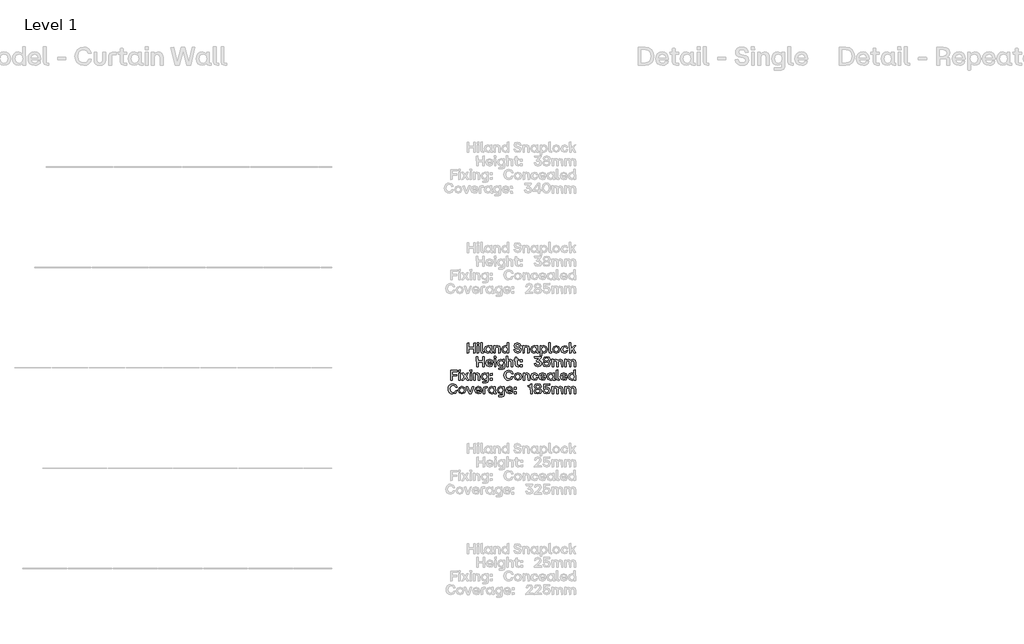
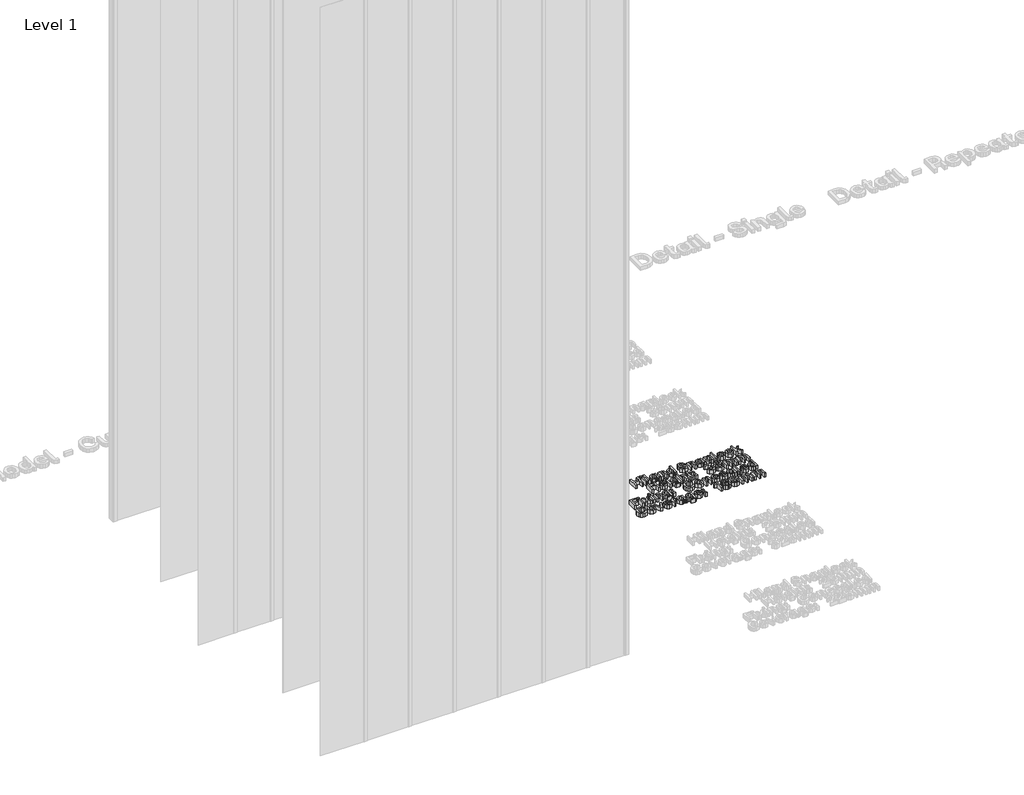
# One storey, part 17 of 64: 1 proxy.
"""IFC4 building model written with IfcOpenShell, lengths in millimetres."""

import ifcopenshell
import ifcopenshell.guid

model = None  # the IFC model being written
_history = None  # IfcOwnerHistory: only IFC2X3 demands one
_inside = {}  # id of a spatial element -> (the spatial element, [elements in it])
_under = {}  # id of a project, library or spatial element -> (it, [spatial elements below it])
_declared = {}  # id of a project -> (the project, [libraries it declares])
_typed = {}  # id of a type object -> (the type object, [elements of that type])
_made_of = {}  # id of a material, layer set ... -> (it, [elements and type objects made of it])


def new_model(schema):
    """Start an empty IFC model of exactly this schema.

    Asked for "IFC4X3", IfcOpenShell would pick the latest addendum, in which some entities
    have other attributes; the version numbers below select the first issue.
    IFC2X3 requires an IfcOwnerHistory on every rooted entity: one is made here for all.
    """
    global model, _history
    if schema == "IFC4X3":
        model = ifcopenshell.file(schema_version=(4, 3, 0, 0))
    else:
        model = ifcopenshell.file(schema=schema)
    _inside.clear()
    _under.clear()
    _declared.clear()
    _typed.clear()
    _made_of.clear()
    _history = None
    if model.schema == "IFC2X3":
        org = make("IfcOrganization", Name="unknown")
        user = make(
            "IfcPersonAndOrganization",
            ThePerson=make("IfcPerson", FamilyName="unknown"),
            TheOrganization=org,
        )
        app = make(
            "IfcApplication",
            ApplicationDeveloper=org,
            Version="unknown",
            ApplicationFullName="unknown",
            ApplicationIdentifier="unknown",
        )
        _history = make(
            "IfcOwnerHistory",
            OwningUser=user,
            OwningApplication=app,
            ChangeAction="ADDED",
            CreationDate=0,
        )
    return model


def make(cls, **values):
    """One entity of the class cls with the attributes given. An attribute that is None is left unset."""
    return model.create_entity(
        cls, **{name: value for name, value in values.items() if value is not None}
    )


def rooted(cls, **values):
    """An entity with a GlobalId (a new one), such as an element, a storey or a relation."""
    return make(cls, GlobalId=ifcopenshell.guid.new(), OwnerHistory=_history, **values)


def si_unit(unit_type, name, prefix=None):
    """IfcSIUnit, for example si_unit("LENGTHUNIT", "METRE", prefix="MILLI")."""
    return make("IfcSIUnit", UnitType=unit_type, Prefix=prefix, Name=name)


def assignment(units):
    """IfcUnitAssignment: the units of a project."""
    return None if units is None else make("IfcUnitAssignment", Units=units)


def point(xyz):
    """IfcCartesianPoint."""
    return None if xyz is None else make("IfcCartesianPoint", Coordinates=xyz)


def direction(xyz):
    """IfcDirection."""
    return None if xyz is None else make("IfcDirection", DirectionRatios=xyz)


def frame(location, z_axis=None, x_axis=None):
    """IfcAxis2Placement3D, a coordinate frame: its origin and axes. An axis left out is left unset."""
    return make(
        "IfcAxis2Placement3D",
        Location=point(location),
        Axis=direction(z_axis),
        RefDirection=direction(x_axis),
    )


def origin():
    """The frame at (0, 0, 0) with its axes left unset."""
    return frame((0.0, 0.0, 0.0))


def origin_with_axes():
    """The frame at (0, 0, 0) with the z axis (0, 0, 1) and the x axis (1, 0, 0) written out."""
    return frame((0.0, 0.0, 0.0), z_axis=(0.0, 0.0, 1.0), x_axis=(1.0, 0.0, 0.0))


def place(relative_to, where):
    """IfcLocalPlacement: puts the frame where relative to a parent placement (None: the world)."""
    return make(
        "IfcLocalPlacement", PlacementRelTo=relative_to, RelativePlacement=where
    )


def context(
    kind, dimensions, precision=None, world=None, true_north=None, identifier=None
):
    """IfcGeometricRepresentationContext, for example the 3D "Model" context."""
    return make(
        "IfcGeometricRepresentationContext",
        ContextIdentifier=identifier,
        ContextType=kind,
        CoordinateSpaceDimension=dimensions,
        Precision=precision,
        WorldCoordinateSystem=world,
        TrueNorth=true_north,
    )


def project(units=None, contexts=None):
    """IfcProject with its units and contexts."""
    return rooted(
        "IfcProject",
        Name="project",
        RepresentationContexts=contexts,
        UnitsInContext=assignment(units),
    )


def spatial(cls, under=None, at=None, **own):
    """A site, building, storey or space (cls), placed at a placement, below another one or the project."""
    s = rooted(cls, ObjectPlacement=at, **own)
    if under is not None:
        _under.setdefault(under.id(), (under, []))[1].append(s)
    return s


def polyline(points):
    """IfcPolyline through the points."""
    return make("IfcPolyline", Points=[point(p) for p in points])


def outline(outer, holes=None, kind="AREA"):
    """IfcArbitraryClosedProfileDef: a profile drawn as a closed curve; with holes, ...WithVoids."""
    if holes is None:
        return make("IfcArbitraryClosedProfileDef", ProfileType=kind, OuterCurve=outer)
    return make(
        "IfcArbitraryProfileDefWithVoids",
        ProfileType=kind,
        OuterCurve=outer,
        InnerCurves=holes,
    )


def extrude(swept, where, along, depth):
    """IfcExtrudedAreaSolid: the profile swept, set in the frame where, extruded along a direction by depth."""
    return make(
        "IfcExtrudedAreaSolid",
        SweptArea=swept,
        Position=where,
        ExtrudedDirection=direction(along),
        Depth=depth,
    )


def shape(context_of_items, identifier, shape_type, items):
    """IfcShapeRepresentation: the items that make up one representation, for example the "Body"."""
    return make(
        "IfcShapeRepresentation",
        ContextOfItems=context_of_items,
        RepresentationIdentifier=identifier,
        RepresentationType=shape_type,
        Items=items,
    )


def made_of(thing, what):
    """Note that an element or type object is made of a material, layer set ...; save() writes the relation."""
    if what is not None:
        _made_of.setdefault(what.id(), (what, []))[1].append(thing)
    return thing


def element(
    cls,
    number,
    at=None,
    inside=None,
    cuts=None,
    type_object=None,
    material=None,
    context=None,
    identifier="Body",
    shape_type=None,
    held_by="IfcProductDefinitionShape",
    body=None,
    shapes=None,
    **own,
):
    """One element of the class cls, such as IfcWall. Its Tag is "e" and its number.

    at: its placement. inside: the storey or other place that contains it. cuts: it is an
    opening in that element (IfcRelVoidsElement). A single representation is given by context,
    identifier, shape_type and body (its items); several are given by shapes. held_by: the class
    of the entity that holds the representations. save() writes the other relations.
    """
    e = rooted(cls, Tag="e%d" % number, ObjectPlacement=at, **own)
    if body is not None:
        shapes = [shape(context, identifier, shape_type, body)]
    if shapes is not None:
        e.Representation = make(held_by, Representations=shapes)
    if inside is not None:
        _inside.setdefault(inside.id(), (inside, []))[1].append(e)
    if cuts is not None:
        rooted(
            "IfcRelVoidsElement", RelatingBuildingElement=cuts, RelatedOpeningElement=e
        )
    if type_object is not None:
        _typed.setdefault(type_object.id(), (type_object, []))[1].append(e)
    return made_of(e, material)


def aggregate(whole, parts):
    """IfcRelAggregates: a whole, such as a stair, and the parts it consists of."""
    return rooted("IfcRelAggregates", RelatingObject=whole, RelatedObjects=parts)


def save(model, path):
    """Write the relations noted so far, then the file.

    IfcRelAggregates (storeys below a building ...), IfcRelContainedInSpatialStructure (elements
    in a storey), IfcRelDefinesByType, IfcRelAssociatesMaterial and IfcRelDeclares: one each for
    every whole, place, type object, material and project.
    """
    for whole, parts in _under.values():
        aggregate(whole, parts)
    for where, things in _inside.values():
        rooted(
            "IfcRelContainedInSpatialStructure",
            RelatedElements=things,
            RelatingStructure=where,
        )
    for kind, things in _typed.values():
        rooted("IfcRelDefinesByType", RelatedObjects=things, RelatingType=kind)
    for what, things in _made_of.values():
        rooted("IfcRelAssociatesMaterial", RelatedObjects=things, RelatingMaterial=what)
    for by, libraries in _declared.values():
        rooted("IfcRelDeclares", RelatingContext=by, RelatedDefinitions=libraries)
    model.write(path)


model = new_model("IFC4")

# Units and contexts
model_context = context("Model", 3, world=origin())
ifc_project = project(units=[si_unit("LENGTHUNIT", "METRE", prefix="MILLI")], contexts=[model_context])

# Site, building, storey
site = spatial("IfcSite", under=ifc_project)
building = spatial("IfcBuilding", under=site)
storey = spatial("IfcBuildingStorey", under=building, Name="Level 1", Elevation=0.0)

# Proxy
placement = place(None, origin())
element("IfcBuildingElementProxy", 1, Name="50mm", ObjectType="50mm", at=placement, inside=storey, context=model_context, shape_type="SweptSolid", body=[
    extrude(outline(polyline([(2488.8278866, -7933.5188866), (2488.1305548, -7911.5808277), (2464.2818068, -7911.5808277), (2464.2818068, -7932.8215548), (2456.7785164, -7933.5188866), (2456.0532913, -7884.2454206), (2463.542635, -7883.5201955), (2464.2818068, -7904.6075096), (2488.1305548, -7904.6075096), (2488.1305548, -7884.2454206), (2495.6198985, -7883.5201955), (2496.3172303, -7932.8215548), (2488.8278866, -7933.5188866)])), origin_with_axes(), (0.0, 0.0, 1.0), 20.0),
    extrude(outline(polyline([(2506.414595, -7933.5188866), (2505.6893699, -7897.8154977), (2512.8997809, -7897.1181659), (2513.5971127, -7932.8215548), (2506.414595, -7933.5188866)])), origin_with_axes(), (0.0, 0.0, 1.0), 20.0),
    extrude(outline(polyline([(2505.4801704, -7890.4516737), (2505.1315045, -7882.4044646), (2513.5273795, -7881.6652929), (2514.2665512, -7890.1030078), (2505.4801704, -7890.4516737)])), origin_with_axes(), (0.0, 0.0, 1.0), 20.0),
    extrude(outline(polyline([(2532.9968838, -7933.5188866), (2525.2983405, -7930.8690257), (2522.6484796, -7923.1565359), (2522.6484796, -7882.8228637), (2529.8588906, -7882.083692), (2530.5562224, -7927.2429003), (2537.2227146, -7927.2429003), (2537.9200464, -7932.8215548), (2532.9968838, -7933.5188866)])), origin_with_axes(), (0.0, 0.0, 1.0), 20.0),
    extrude(outline(polyline([(2558.0868825, -7933.9372857), (2546.3159214, -7928.8955767), (2541.9366776, -7915.3882594), (2546.3159214, -7901.7484491), (2558.0868825, -7896.6579269), (2564.7045614, -7898.2617901), (2569.6904839, -7902.6549805), (2570.0112565, -7897.8154977), (2577.1937742, -7897.1181659), (2577.9189993, -7927.2429003), (2581.8658973, -7927.2429003), (2582.5632291, -7932.8215548), (2576.5661755, -7933.5188866), (2571.9114857, -7932.2113895), (2570.3599224, -7928.288898), (2565.0044141, -7932.3334225), (2558.0868825, -7933.9372857)]), holes=[polyline([(2549.9978334, -7915.3882594), (2552.7522941, -7924.2792401), (2560.2765044, -7927.521833), (2567.6403283, -7924.2931867), (2570.2901892, -7915.3882594), (2567.6194084, -7906.392679), (2560.2765044, -7903.1152195), (2552.7522941, -7906.392679), (2549.9978334, -7915.3882594)])]), origin_with_axes(), (0.0, 0.0, 1.0), 20.0),
    extrude(outline(polyline([(2589.4249742, -7933.5188866), (2588.6997491, -7897.8154977), (2595.5614942, -7897.1181659), (2596.258826, -7902.6549805), (2601.4225681, -7898.1571903), (2608.0437337, -7896.6579269), (2617.6041528, -7900.8419178), (2620.916479, -7913.0870644), (2620.916479, -7932.8215548), (2613.6921214, -7933.5188866), (2612.9668963, -7913.0870644), (2611.0143672, -7905.7092939), (2604.8429806, -7903.3941522), (2598.6158075, -7905.7441604), (2596.6074919, -7913.0870644), (2596.6074919, -7932.8215548), (2589.4249742, -7933.5188866)])), origin_with_axes(), (0.0, 0.0, 1.0), 20.0),
    extrude(outline(polyline([(2643.7750158, -7933.9372857), (2632.0040548, -7928.8955767), (2627.624811, -7915.3882594), (2632.0040548, -7901.7484491), (2643.7750158, -7896.6579269), (2650.3926948, -7898.2617901), (2655.3786172, -7902.6549805), (2655.6993899, -7882.8228637), (2662.8819076, -7882.083692), (2663.6071326, -7932.8215548), (2656.7453876, -7933.5188866), (2656.0480558, -7928.0099653), (2650.6925474, -7932.3334225), (2643.7750158, -7933.9372857)]), holes=[polyline([(2635.6859668, -7915.3882594), (2638.4404275, -7924.2792401), (2645.9646377, -7927.521833), (2653.3284617, -7924.2931867), (2655.9783226, -7915.3882594), (2653.3075417, -7906.392679), (2645.9646377, -7903.1152195), (2638.4404275, -7906.392679), (2635.6859668, -7915.3882594)])]), origin_with_axes(), (0.0, 0.0, 1.0), 20.0),
    extrude(outline(polyline([(2707.7621831, -7933.9372857), (2694.1781594, -7929.823028), (2688.1950524, -7918.1078535), (2695.5588764, -7917.2989486), (2699.7219473, -7924.9417053), (2707.7621831, -7927.1034339), (2714.7145813, -7925.1160383), (2717.2040559, -7919.6001436), (2715.4816463, -7915.0186736), (2709.7147122, -7912.7383985), (2703.1179533, -7911.5808277), (2692.6370561, -7906.8180514), (2689.1434237, -7897.4668318), (2693.6202939, -7886.9022548), (2706.1164801, -7883.1017964), (2718.7102926, -7886.951068), (2724.3168404, -7897.8154977), (2716.9948564, -7898.610456), (2712.9712518, -7891.8672573), (2706.1164801, -7889.9635415), (2699.582481, -7891.706871), (2697.3300992, -7896.7973933), (2699.3384148, -7901.6299027), (2705.6283478, -7904.1612172), (2712.1832668, -7905.3048414), (2722.2806315, -7909.8932847), (2725.4046781, -7919.4606772), (2720.7116349, -7930.1019607), (2707.7621831, -7933.9372857)])), origin_with_axes(), (0.0, 0.0, 1.0), 20.0),
    extrude(outline(polyline([(2734.0236993, -7933.5188866), (2733.2984742, -7897.8154977), (2740.1602192, -7897.1181659), (2740.8575511, -7902.6549805), (2746.0212931, -7898.1571903), (2752.6424587, -7896.6579269), (2762.2028779, -7900.8419178), (2765.515204, -7913.0870644), (2765.515204, -7932.8215548), (2758.2908464, -7933.5188866), (2757.5656213, -7913.0870644), (2755.6130923, -7905.7092939), (2749.4417057, -7903.3941522), (2743.2145326, -7905.7441604), (2741.206217, -7913.0870644), (2741.206217, -7932.8215548), (2734.0236993, -7933.5188866)])), origin_with_axes(), (0.0, 0.0, 1.0), 20.0),
    extrude(outline(polyline([(2788.3737409, -7933.9372857), (2776.6027799, -7928.8955767), (2772.2235361, -7915.3882594), (2776.6027799, -7901.7484491), (2788.3737409, -7896.6579269), (2794.9914198, -7898.2617901), (2799.9773423, -7902.6549805), (2800.2981149, -7897.8154977), (2807.4806326, -7897.1181659), (2808.2058577, -7927.2429003), (2812.1527558, -7927.2429003), (2812.8500876, -7932.8215548), (2806.853034, -7933.5188866), (2802.1983441, -7932.2113895), (2800.6467808, -7928.288898), (2795.2912725, -7932.3334225), (2788.3737409, -7933.9372857)]), holes=[polyline([(2780.2846919, -7915.3882594), (2783.0391525, -7924.2792401), (2790.5633628, -7927.521833), (2797.9271868, -7924.2931867), (2800.5770477, -7915.3882594), (2797.9062668, -7906.392679), (2790.5633628, -7903.1152195), (2783.0391525, -7906.392679), (2780.2846919, -7915.3882594)])]), origin_with_axes(), (0.0, 0.0, 1.0), 20.0),
    extrude(outline(polyline([(2819.7118327, -7947.0750171), (2818.9866076, -7897.8154977), (2825.8483526, -7897.1181659), (2826.5456844, -7902.5852473), (2831.9011928, -7898.2617901), (2838.8187244, -7896.6579269), (2850.5896854, -7901.7135826), (2854.9689292, -7915.2487931), (2850.5896854, -7928.8607101), (2838.8187244, -7933.9372857), (2832.2010455, -7932.3334225), (2827.215123, -7927.9402321), (2826.8943503, -7946.3776853), (2819.7118327, -7947.0750171)]), holes=[polyline([(2826.6154176, -7915.2487931), (2829.2861985, -7924.2443735), (2836.6291025, -7927.521833), (2844.1533128, -7924.2443735), (2846.9077734, -7915.2487931), (2844.1533128, -7906.3578124), (2836.6291025, -7903.1152195), (2829.2652785, -7906.3368925), (2826.6154176, -7915.2487931)])]), origin_with_axes(), (0.0, 0.0, 1.0), 20.0),
    extrude(outline(polyline([(2872.1790784, -7933.5188866), (2864.4805352, -7930.8690257), (2861.8306743, -7923.1565359), (2861.8306743, -7882.8228637), (2869.0410852, -7882.083692), (2869.738417, -7927.2429003), (2876.4049092, -7927.2429003), (2877.102241, -7932.8215548), (2872.1790784, -7933.5188866)])), origin_with_axes(), (0.0, 0.0, 1.0), 20.0),
    extrude(outline(polyline([(2899.3192326, -7933.9372857), (2886.1605813, -7928.8118969), (2881.1188722, -7915.3882594), (2886.1745279, -7901.8530489), (2899.3192326, -7896.6579269), (2912.589457, -7901.8530489), (2917.6590593, -7915.3882594), (2912.589457, -7928.8118969), (2899.3192326, -7933.9372857)]), holes=[polyline([(2889.180028, -7915.3882594), (2891.8787021, -7924.2931867), (2899.3192326, -7927.521833), (2906.8573895, -7924.2792401), (2909.6118502, -7915.3882594), (2906.8713362, -7906.392679), (2899.3192326, -7903.1152195), (2891.8787021, -7906.392679), (2889.180028, -7915.3882594)])]), origin_with_axes(), (0.0, 0.0, 1.0), 20.0),
    extrude(outline(polyline([(2941.4101809, -7933.9372857), (2928.0771966, -7928.8955767), (2923.0703542, -7915.3882594), (2928.1469298, -7901.8530489), (2941.4101809, -7896.6579269), (2952.4838102, -7900.0957727), (2957.6998521, -7909.1820063), (2950.6846941, -7909.9490713), (2947.1143552, -7904.6493495), (2941.4101809, -7903.1152195), (2933.8511041, -7906.392679), (2931.13151, -7915.3882594), (2933.8650507, -7924.3141067), (2941.4101809, -7927.521833), (2947.2886881, -7926.0574362), (2950.266295, -7921.3155799), (2957.3511862, -7920.6461413), (2952.6930097, -7930.4994399), (2941.4101809, -7933.9372857)])), origin_with_axes(), (0.0, 0.0, 1.0), 20.0),
    extrude(outline(polyline([(2966.0957272, -7933.5188866), (2965.3705021, -7882.8228637), (2972.5809131, -7882.083692), (2973.2782449, -7912.8778649), (2988.5219183, -7897.4668318), (2996.4296611, -7897.1181659), (2983.7103288, -7912.0410667), (2997.7964315, -7932.6402485), (2990.1536748, -7933.5188866), (2978.4385003, -7917.2292154), (2973.2782449, -7922.2918444), (2973.2782449, -7932.8215548), (2966.0957272, -7933.5188866)])), origin_with_axes(), (0.0, 0.0, 1.0), 20.0),
    extrude(outline(polyline([(2534.3497075, -8001.3705811), (2533.6523757, -7979.4325222), (2509.8036276, -7979.4325222), (2509.8036276, -8000.6732493), (2502.3003373, -8001.3705811), (2501.5751122, -7952.0971151), (2509.0644559, -7951.37189), (2509.8036276, -7972.459204), (2533.6523757, -7972.459204), (2533.6523757, -7952.0971151), (2541.1417194, -7951.37189), (2541.8390512, -8000.6732493), (2534.3497075, -8001.3705811)])), origin_with_axes(), (0.0, 0.0, 1.0), 20.0),
    extrude(outline(polyline([(2567.4869153, -8001.7889802), (2554.0841978, -7996.7472711), (2549.0773554, -7983.2399539), (2554.0632779, -7969.586197), (2567.4869153, -7964.5096214), (2579.7669286, -7969.5164638), (2584.2647188, -7983.1702207), (2584.2647188, -7985.0809099), (2557.2082444, -7985.8200816), (2560.2765044, -7992.8631329), (2567.4869153, -7995.3735275), (2573.2747694, -7994.0974102), (2576.2732962, -7990.520098), (2583.3581874, -7989.9343393), (2578.7000109, -7998.6998002), (2567.4869153, -8001.7889802)]), holes=[polyline([(2557.2779776, -7980.0322275), (2576.4824957, -7980.0322275), (2573.8396081, -7973.3866554), (2567.4869153, -7970.966914), (2560.3950508, -7973.2681089), (2557.2779776, -7980.0322275)])]), origin_with_axes(), (0.0, 0.0, 1.0), 20.0),
    extrude(outline(polyline([(2591.1683037, -7958.3033682), (2590.8196378, -7950.2561591), (2599.2155129, -7949.5169873), (2599.9546846, -7957.9547023), (2591.1683037, -7958.3033682)])), origin_with_axes(), (0.0, 0.0, 1.0), 20.0),
    extrude(outline(polyline([(2592.1027284, -8001.3705811), (2591.3775033, -7965.6671922), (2598.5879142, -7964.9698603), (2599.2852461, -8000.6732493), (2592.1027284, -8001.3705811)])), origin_with_axes(), (0.0, 0.0, 1.0), 20.0),
    extrude(outline(polyline([(2613.7758012, -8014.9267115), (2613.0366294, -8009.348057), (2634.2773565, -8008.6507252), (2634.2773565, -7995.7919266), (2628.9706614, -8000.185117), (2622.3529825, -8001.7889802), (2610.5820215, -7996.7124045), (2606.2027777, -7983.1004875), (2610.5820215, -7969.565277), (2622.3529825, -7964.5096214), (2629.2705141, -7966.1134845), (2634.3470897, -7970.4369418), (2634.6260224, -7965.6671922), (2641.4598742, -7964.9698603), (2642.1850993, -8004.9269733), (2639.6049716, -8012.3675038), (2632.1853611, -8014.9267115), (2613.7758012, -8014.9267115)]), holes=[polyline([(2614.2639334, -7983.1004875), (2617.0183941, -7992.0960679), (2624.5426044, -7995.3735275), (2631.8855084, -7992.0960679), (2634.5562892, -7983.1004875), (2631.9064284, -7974.1885869), (2624.5426044, -7970.966914), (2617.0183941, -7974.2095069), (2614.2639334, -7983.1004875)])]), origin_with_axes(), (0.0, 0.0, 1.0), 20.0),
    extrude(outline(polyline([(2651.9059048, -8001.3705811), (2651.1806797, -7950.6745581), (2658.3910907, -7949.9353864), (2659.0884225, -7970.2277422), (2664.1754581, -7965.9391516), (2670.5246642, -7964.5096214), (2680.0850834, -7968.6936122), (2683.3974095, -7980.9387589), (2683.3974095, -8000.6732493), (2676.1730519, -8001.3705811), (2675.4478269, -7980.9387589), (2673.4952978, -7973.5609883), (2667.3239112, -7971.2458467), (2661.0967381, -7973.5958549), (2659.0884225, -7980.9387589), (2659.0884225, -8000.6732493), (2651.9059048, -8001.3705811)])), origin_with_axes(), (0.0, 0.0, 1.0), 20.0),
    extrude(outline(polyline([(2706.6743455, -8001.3705811), (2698.9618556, -7998.7207202), (2696.3119947, -7991.0082303), (2696.3119947, -7971.2458467), (2690.1057416, -7971.2458467), (2689.3805165, -7965.6671922), (2696.3119947, -7964.9698603), (2696.3119947, -7954.9561755), (2703.5363523, -7954.2309504), (2704.2336842, -7964.9698603), (2713.020065, -7964.9698603), (2713.7452901, -7970.506675), (2704.2336842, -7971.2458467), (2704.2336842, -7995.0945947), (2713.020065, -7995.0945947), (2713.7452901, -8000.6732493), (2706.6743455, -8001.3705811)])), origin_with_axes(), (0.0, 0.0, 1.0), 20.0),
    extrude(outline(polyline([(2721.150954, -7977.7310326), (2720.4536222, -7968.1078535), (2729.9373348, -7967.3686818), (2730.6625599, -7977.0337007), (2721.150954, -7977.7310326)])), origin_with_axes(), (0.0, 0.0, 1.0), 20.0),
    extrude(outline(polyline([(2720.8022881, -8001.0219152), (2720.4536222, -7991.747402), (2729.9373348, -7991.0082303), (2730.6625599, -8000.6732493), (2720.8022881, -8001.0219152)])), origin_with_axes(), (0.0, 0.0, 1.0), 20.0),
    extrude(outline(polyline([(2808.2755909, -8001.7889802), (2794.8798467, -7997.7235357), (2789.0571261, -7985.959548), (2796.42095, -7985.1506431), (2800.584021, -7992.7236666), (2808.2755909, -7994.9551284), (2815.4162687, -7992.5493336), (2818.0661296, -7985.959548), (2815.2977223, -7979.0908296), (2806.6298878, -7976.8942344), (2801.1906997, -7976.8942344), (2800.4933678, -7972.8078699), (2813.8542454, -7958.6520341), (2791.1491215, -7958.3731014), (2790.4238964, -7952.0971151), (2824.1329164, -7951.37189), (2824.8302482, -7956.1834795), (2811.9296096, -7970.0882759), (2822.6545729, -7975.2136647), (2826.2667517, -7985.959548), (2821.4202956, -7997.5352561), (2808.2755909, -8001.7889802)])), origin_with_axes(), (0.0, 0.0, 1.0), 20.0),
    extrude(outline(polyline([(2865.4289064, -7998.1768014), (2851.3846437, -8001.7889802), (2837.3124877, -7998.1768014), (2832.3753784, -7987.8702371), (2834.8509064, -7980.1368273), (2841.5104252, -7975.8063967), (2835.9457173, -7971.1691402), (2834.0908147, -7964.370155), (2838.7768845, -7954.5796163), (2851.3776704, -7950.9534909), (2863.9645096, -7954.5796163), (2868.6366328, -7964.370155), (2866.7817301, -7971.1691402), (2861.2170223, -7975.527464), (2867.8765411, -7980.1368273), (2870.352069, -7987.8702371), (2865.4289064, -7998.1768014)]), holes=[polyline([(2840.5760005, -7986.9358125), (2843.2781613, -7992.9502994), (2851.3846437, -7994.9551284), (2859.4597461, -7992.9502994), (2862.1514469, -7986.9358125), (2859.4597461, -7981.3606446), (2851.3846437, -7979.5022554), (2843.2781613, -7981.3606446), (2840.5760005, -7986.9358125)]), polyline([(2842.3193301, -7965.4579926), (2844.6553917, -7970.8065276), (2851.3846437, -7972.6684036), (2858.1138957, -7970.8065276), (2860.4499573, -7965.4579926), (2858.1138957, -7959.788685), (2851.3846437, -7957.8152359), (2844.6553917, -7959.788685), (2842.3193301, -7965.4579926)])]), origin_with_axes(), (0.0, 0.0, 1.0), 20.0),
    extrude(outline(polyline([(2878.6224244, -8001.3705811), (2877.8971993, -7965.6671922), (2884.7589443, -7964.9698603), (2885.4562761, -7970.506675), (2890.4421986, -7966.0088848), (2896.8925179, -7964.5096214), (2903.1789642, -7966.0088848), (2907.394335, -7970.506675), (2913.2170557, -7966.0646713), (2920.4623332, -7964.5096214), (2929.7368464, -7968.6796656), (2932.9445727, -7980.9387589), (2932.9445727, -8000.6732493), (2925.7341617, -8001.3705811), (2925.0368299, -7980.9387589), (2923.154034, -7973.5609883), (2917.1848737, -7971.2458467), (2911.2784732, -7973.5958549), (2909.3747574, -7980.9387589), (2909.3747574, -8000.6732493), (2902.1643464, -8001.3705811), (2901.4670146, -7980.9387589), (2899.5981653, -7973.5609883), (2893.6847915, -7971.2458467), (2887.7086579, -7973.5958549), (2885.804942, -7980.9387589), (2885.804942, -8000.6732493), (2878.6224244, -8001.3705811)])), origin_with_axes(), (0.0, 0.0, 1.0), 20.0),
    extrude(outline(polyline([(2941.9959397, -8001.3705811), (2941.2707146, -7965.6671922), (2948.1324596, -7964.9698603), (2948.8297914, -7970.506675), (2953.8157139, -7966.0088848), (2960.2660332, -7964.5096214), (2966.5524795, -7966.0088848), (2970.7678503, -7970.506675), (2976.590571, -7966.0646713), (2983.8358485, -7964.5096214), (2993.1103617, -7968.6796656), (2996.318088, -7980.9387589), (2996.318088, -8000.6732493), (2989.1076771, -8001.3705811), (2988.4103452, -7980.9387589), (2986.5275493, -7973.5609883), (2980.558389, -7971.2458467), (2974.6519885, -7973.5958549), (2972.7482727, -7980.9387589), (2972.7482727, -8000.6732493), (2965.5378617, -8001.3705811), (2964.8405299, -7980.9387589), (2962.9716806, -7973.5609883), (2957.0583069, -7971.2458467), (2951.0821732, -7973.5958549), (2949.1784574, -7980.9387589), (2949.1784574, -8000.6732493), (2941.9959397, -8001.3705811)])), origin_with_axes(), (0.0, 0.0, 1.0), 20.0),
    extrude(outline(polyline([(2374.6607219, -8069.2222755), (2373.9354969, -8019.9488095), (2405.5246281, -8019.2235844), (2406.2219599, -8025.527464), (2382.1640123, -8026.2247958), (2382.1640123, -8041.287163), (2404.0881245, -8041.287163), (2404.7854563, -8047.5631494), (2382.1640123, -8048.3023211), (2382.1640123, -8068.5249437), (2374.6607219, -8069.2222755)])), origin_with_axes(), (0.0, 0.0, 1.0), 20.0),
    extrude(outline(polyline([(2414.4783686, -8069.2222755), (2413.7531435, -8033.5188866), (2420.9635544, -8032.8215548), (2421.6608863, -8068.5249437), (2414.4783686, -8069.2222755)])), origin_with_axes(), (0.0, 0.0, 1.0), 20.0),
    extrude(outline(polyline([(2413.5439439, -8026.1550627), (2413.195278, -8018.1078535), (2421.5911531, -8017.3686818), (2422.3303248, -8025.8063967), (2413.5439439, -8026.1550627)])), origin_with_axes(), (0.0, 0.0, 1.0), 20.0),
    extrude(outline(polyline([(2428.5784179, -8069.2222755), (2441.3395901, -8050.7429824), (2429.1362833, -8033.658353), (2437.1277059, -8032.8215548), (2445.9140868, -8044.815662), (2454.1426022, -8033.2399539), (2462.2595445, -8032.8215548), (2450.6559431, -8049.9340775), (2463.696048, -8068.3436374), (2455.7046254, -8069.2222755), (2445.9838199, -8055.7916648), (2436.7093068, -8068.8038764), (2428.5784179, -8069.2222755)])), origin_with_axes(), (0.0, 0.0, 1.0), 20.0),
    extrude(outline(polyline([(2470.7112061, -8069.2222755), (2469.985981, -8033.5188866), (2477.196392, -8032.8215548), (2477.8937238, -8068.5249437), (2470.7112061, -8069.2222755)])), origin_with_axes(), (0.0, 0.0, 1.0), 20.0),
    extrude(outline(polyline([(2469.7767815, -8026.1550627), (2469.4281156, -8018.1078535), (2477.8239906, -8017.3686818), (2478.5631623, -8025.8063967), (2469.7767815, -8026.1550627)])), origin_with_axes(), (0.0, 0.0, 1.0), 20.0),
    extrude(outline(polyline([(2487.6703158, -8069.2222755), (2486.9450907, -8033.5188866), (2493.8068358, -8032.8215548), (2494.5041676, -8038.3583694), (2499.6679097, -8033.8605792), (2506.2890753, -8032.3613158), (2515.8494944, -8036.5453067), (2519.1618206, -8048.7904534), (2519.1618206, -8068.5249437), (2511.937463, -8069.2222755), (2511.2122379, -8048.7904534), (2509.2597088, -8041.4126828), (2503.0883222, -8039.0975411), (2496.8611491, -8041.4475493), (2494.8528335, -8048.7904534), (2494.8528335, -8068.5249437), (2487.6703158, -8069.2222755)])), origin_with_axes(), (0.0, 0.0, 1.0), 20.0),
    extrude(outline(polyline([(2533.4431761, -8082.778406), (2532.7040044, -8077.1997515), (2553.9447315, -8076.5024197), (2553.9447315, -8063.643621), (2548.6380364, -8068.0368114), (2542.0203574, -8069.6406746), (2530.2493964, -8064.564099), (2525.8701526, -8050.952182), (2530.2493964, -8037.4169715), (2542.0203574, -8032.3613158), (2548.9378891, -8033.965179), (2554.0144647, -8038.2886362), (2554.2933974, -8033.5188866), (2561.1272492, -8032.8215548), (2561.8524743, -8072.7786678), (2559.2723465, -8080.2191982), (2551.852736, -8082.778406), (2533.4431761, -8082.778406)]), holes=[polyline([(2533.9313084, -8050.952182), (2536.6857691, -8059.9477624), (2544.2099793, -8063.2252219), (2551.5528834, -8059.9477624), (2554.2236642, -8050.952182), (2551.5738033, -8042.0402814), (2544.2099793, -8038.8186084), (2536.6857691, -8042.0612013), (2533.9313084, -8050.952182)])]), origin_with_axes(), (0.0, 0.0, 1.0), 20.0),
    extrude(outline(polyline([(2571.1967206, -8045.582727), (2570.4993888, -8035.959548), (2579.9831014, -8035.2203762), (2580.7083265, -8044.8853952), (2571.1967206, -8045.582727)])), origin_with_axes(), (0.0, 0.0, 1.0), 20.0),
    extrude(outline(polyline([(2570.8480547, -8068.8736096), (2570.4993888, -8059.5990965), (2579.9831014, -8058.8599248), (2580.7083265, -8068.5249437), (2570.8480547, -8068.8736096)])), origin_with_axes(), (0.0, 0.0, 1.0), 20.0),
    extrude(outline(polyline([(2662.9516407, -8069.6406746), (2652.9449292, -8067.9269817), (2645.2394126, -8062.7859029), (2640.3232234, -8054.7160305), (2638.6844936, -8044.2159567), (2640.33717, -8033.8919591), (2645.2951992, -8025.7924501), (2653.0146624, -8020.5520015), (2662.9516407, -8018.8051853), (2677.1283965, -8023.4215219), (2684.0807947, -8035.7085085), (2676.7588107, -8036.5174134), (2671.5950686, -8028.3272513), (2662.9516407, -8025.8063967), (2651.2922528, -8030.743506), (2647.0524754, -8044.2159567), (2651.2713328, -8057.7999804), (2662.9516407, -8062.6673565), (2671.7659149, -8060.1813685), (2676.4519847, -8052.7234048), (2683.8715952, -8052.0679129), (2677.4073293, -8065.0382846), (2662.9516407, -8069.6406746)])), origin_with_axes(), (0.0, 0.0, 1.0), 20.0),
    extrude(outline(polyline([(2708.306102, -8069.6406746), (2695.1474506, -8064.5152858), (2690.1057416, -8051.0916483), (2695.1613973, -8037.5564378), (2708.306102, -8032.3613158), (2721.5763264, -8037.5564378), (2726.6459287, -8051.0916483), (2721.5763264, -8064.5152858), (2708.306102, -8069.6406746)]), holes=[polyline([(2698.1668974, -8051.0916483), (2700.8655715, -8059.9965756), (2708.306102, -8063.2252219), (2715.8442589, -8059.982629), (2718.5987195, -8051.0916483), (2715.8582055, -8042.0960679), (2708.306102, -8038.8186084), (2700.8655715, -8042.0960679), (2698.1668974, -8051.0916483)])]), origin_with_axes(), (0.0, 0.0, 1.0), 20.0),
    extrude(outline(polyline([(2734.916284, -8069.2222755), (2734.1910589, -8033.5188866), (2741.052804, -8032.8215548), (2741.7501358, -8038.3583694), (2746.9138779, -8033.8605792), (2753.5350435, -8032.3613158), (2763.0954626, -8036.5453067), (2766.4077887, -8048.7904534), (2766.4077887, -8068.5249437), (2759.1834311, -8069.2222755), (2758.4582061, -8048.7904534), (2756.505677, -8041.4126828), (2750.3342904, -8039.0975411), (2744.1071173, -8041.4475493), (2742.0988017, -8048.7904534), (2742.0988017, -8068.5249437), (2734.916284, -8069.2222755)])), origin_with_axes(), (0.0, 0.0, 1.0), 20.0),
    extrude(outline(polyline([(2791.4559475, -8069.6406746), (2778.1229632, -8064.5989656), (2773.1161208, -8051.0916483), (2778.1926964, -8037.5564378), (2791.4559475, -8032.3613158), (2802.5295767, -8035.7991616), (2807.7456187, -8044.8853952), (2800.7304607, -8045.6524602), (2797.1601218, -8040.3527384), (2791.4559475, -8038.8186084), (2783.8968707, -8042.0960679), (2781.1772766, -8051.0916483), (2783.9108173, -8060.0174956), (2791.4559475, -8063.2252219), (2797.3344547, -8061.7608251), (2800.3120616, -8057.0189688), (2807.3969528, -8056.3495302), (2802.7387763, -8066.2028288), (2791.4559475, -8069.6406746)])), origin_with_axes(), (0.0, 0.0, 1.0), 20.0),
    extrude(outline(polyline([(2831.6919932, -8069.6406746), (2818.2892758, -8064.5989656), (2813.2824333, -8051.0916483), (2818.2683558, -8037.4378914), (2831.6919932, -8032.3613158), (2843.9720065, -8037.3681582), (2848.4697967, -8051.0219152), (2848.4697967, -8052.9326043), (2821.4133223, -8053.6717761), (2824.4815823, -8060.7148274), (2831.6919932, -8063.2252219), (2837.4798473, -8061.9491047), (2840.4783741, -8058.3717925), (2847.5632653, -8057.7860338), (2842.9050888, -8066.5514947), (2831.6919932, -8069.6406746)]), holes=[polyline([(2821.4830555, -8047.883922), (2840.6875736, -8047.883922), (2838.0446861, -8041.2383498), (2831.6919932, -8038.8186084), (2824.6001287, -8041.1198034), (2821.4830555, -8047.883922)])]), origin_with_axes(), (0.0, 0.0, 1.0), 20.0),
    extrude(outline(polyline([(2869.5989507, -8069.6406746), (2857.8279896, -8064.5989656), (2853.4487458, -8051.0916483), (2857.8279896, -8037.4518381), (2869.5989507, -8032.3613158), (2876.2166296, -8033.965179), (2881.2025521, -8038.3583694), (2881.5233247, -8033.5188866), (2888.7058424, -8032.8215548), (2889.4310675, -8062.9462892), (2893.3779655, -8062.9462892), (2894.0752974, -8068.5249437), (2888.0782438, -8069.2222755), (2883.4235539, -8067.9147784), (2881.8719906, -8063.9922869), (2876.5164823, -8068.0368114), (2869.5989507, -8069.6406746)]), holes=[polyline([(2861.5099016, -8051.0916483), (2864.2643623, -8059.982629), (2871.7885726, -8063.2252219), (2879.1523965, -8059.9965756), (2881.8022574, -8051.0916483), (2879.1314766, -8042.0960679), (2871.7885726, -8038.8186084), (2864.2643623, -8042.0960679), (2861.5099016, -8051.0916483)])]), origin_with_axes(), (0.0, 0.0, 1.0), 20.0),
    extrude(outline(polyline([(2910.5602215, -8069.2222755), (2902.8616782, -8066.5724146), (2900.2118173, -8058.8599248), (2900.2118173, -8018.5262526), (2907.4222283, -8017.7870809), (2908.1195601, -8062.9462892), (2914.7860523, -8062.9462892), (2915.4833841, -8068.5249437), (2910.5602215, -8069.2222755)])), origin_with_axes(), (0.0, 0.0, 1.0), 20.0),
    extrude(outline(polyline([(2937.9095752, -8069.6406746), (2924.5068578, -8064.5989656), (2919.5000153, -8051.0916483), (2924.4859378, -8037.4378914), (2937.9095752, -8032.3613158), (2950.1895885, -8037.3681582), (2954.6873787, -8051.0219152), (2954.6873787, -8052.9326043), (2927.6309043, -8053.6717761), (2930.6991643, -8060.7148274), (2937.9095752, -8063.2252219), (2943.6974293, -8061.9491047), (2946.6959561, -8058.3717925), (2953.7808473, -8057.7860338), (2949.1226708, -8066.5514947), (2937.9095752, -8069.6406746)]), holes=[polyline([(2927.7006375, -8047.883922), (2946.9051556, -8047.883922), (2944.2622681, -8041.2383498), (2937.9095752, -8038.8186084), (2930.8177107, -8041.1198034), (2927.7006375, -8047.883922)])]), origin_with_axes(), (0.0, 0.0, 1.0), 20.0),
    extrude(outline(polyline([(2975.8165327, -8069.6406746), (2964.0455716, -8064.5989656), (2959.6663278, -8051.0916483), (2964.0455716, -8037.4518381), (2975.8165327, -8032.3613158), (2982.4342116, -8033.965179), (2987.4201341, -8038.3583694), (2987.7409067, -8018.5262526), (2994.9234244, -8017.7870809), (2995.6486495, -8068.5249437), (2988.7869044, -8069.2222755), (2988.0895726, -8063.7133542), (2982.7340643, -8068.0368114), (2975.8165327, -8069.6406746)]), holes=[polyline([(2967.7274836, -8051.0916483), (2970.4819443, -8059.982629), (2978.0061546, -8063.2252219), (2985.3699785, -8059.9965756), (2988.0198394, -8051.0916483), (2985.3490586, -8042.0960679), (2978.0061546, -8038.8186084), (2970.4819443, -8042.0960679), (2967.7274836, -8051.0916483)])]), origin_with_axes(), (0.0, 0.0, 1.0), 20.0),
    extrude(outline(polyline([(2384.4652073, -8137.4923691), (2374.4584957, -8135.7786761), (2366.7529792, -8130.6375973), (2361.8367899, -8122.5677249), (2360.1980601, -8112.0676511), (2361.8507365, -8101.7436536), (2366.8087657, -8093.6441446), (2374.5282289, -8088.403696), (2384.4652073, -8086.6568798), (2398.6419631, -8091.2732164), (2405.5943612, -8103.560203), (2398.2723772, -8104.3691079), (2393.1086351, -8096.1789457), (2384.4652073, -8093.6580912), (2372.8058193, -8098.5952004), (2368.5660419, -8112.0676511), (2372.7848994, -8125.6516749), (2384.4652073, -8130.5190509), (2393.2794814, -8128.033063), (2397.9655512, -8120.5750992), (2405.3851617, -8119.9196073), (2398.9208958, -8132.8899791), (2384.4652073, -8137.4923691)])), origin_with_axes(), (0.0, 0.0, 1.0), 20.0),
    extrude(outline(polyline([(2429.8196685, -8137.4923691), (2416.6610171, -8132.3669802), (2411.6193081, -8118.9433428), (2416.6749638, -8105.4081323), (2429.8196685, -8100.2130103), (2443.0898929, -8105.4081323), (2448.1594952, -8118.9433428), (2443.0898929, -8132.3669802), (2429.8196685, -8137.4923691)]), holes=[polyline([(2419.6804639, -8118.9433428), (2422.379138, -8127.8482701), (2429.8196685, -8131.0769164), (2437.3578254, -8127.8343234), (2440.1122861, -8118.9433428), (2437.371772, -8109.9477624), (2429.8196685, -8106.6703029), (2422.379138, -8109.9477624), (2419.6804639, -8118.9433428)])]), origin_with_axes(), (0.0, 0.0, 1.0), 20.0),
    extrude(outline(polyline([(2466.2622291, -8137.07397), (2451.8693005, -8101.5100474), (2459.1215513, -8100.6732493), (2470.5577931, -8130.5887841), (2481.3943295, -8101.2311147), (2488.7581535, -8100.6732493), (2475.6483153, -8136.5161045), (2466.2622291, -8137.07397)])), origin_with_axes(), (0.0, 0.0, 1.0), 20.0),
    extrude(outline(polyline([(2511.2540778, -8137.4923691), (2497.8513603, -8132.45066), (2492.8445179, -8118.9433428), (2497.8304404, -8105.2895859), (2511.2540778, -8100.2130103), (2523.534091, -8105.2198527), (2528.0318812, -8118.8736096), (2528.0318812, -8120.7842988), (2500.9754068, -8121.5234705), (2504.0436668, -8128.5665218), (2511.2540778, -8131.0769164), (2517.0419319, -8129.8007992), (2520.0404587, -8126.2234869), (2527.1253499, -8125.6377282), (2522.4671734, -8134.4031891), (2511.2540778, -8137.4923691)]), holes=[polyline([(2501.04514, -8115.7356165), (2520.2496582, -8115.7356165), (2517.6067706, -8109.0900443), (2511.2540778, -8106.6703029), (2504.1622132, -8108.9714978), (2501.04514, -8115.7356165)])]), origin_with_axes(), (0.0, 0.0, 1.0), 20.0),
    extrude(outline(polyline([(2535.4933317, -8137.07397), (2534.7959999, -8110.9937601), (2537.4458607, -8103.3021902), (2545.144404, -8100.6732493), (2555.2975552, -8100.6732493), (2555.994887, -8106.6703029), (2542.7037426, -8107.3676347), (2542.7037426, -8136.3766382), (2535.4933317, -8137.07397)])), origin_with_axes(), (0.0, 0.0, 1.0), 20.0),
    extrude(outline(polyline([(2576.8311616, -8137.4923691), (2565.0602006, -8132.45066), (2560.6809568, -8118.9433428), (2565.0602006, -8105.3035325), (2576.8311616, -8100.2130103), (2583.4488406, -8101.8168734), (2588.434763, -8106.2100639), (2588.7555357, -8101.3705811), (2595.9380534, -8100.6732493), (2596.6632784, -8130.7979836), (2600.6101765, -8130.7979836), (2601.3075083, -8136.3766382), (2595.3104547, -8137.07397), (2590.6557649, -8135.7664728), (2589.1042016, -8131.8439814), (2583.7486932, -8135.8885059), (2576.8311616, -8137.4923691)]), holes=[polyline([(2568.7421126, -8118.9433428), (2571.4965733, -8127.8343234), (2579.0207835, -8131.0769164), (2586.3846075, -8127.8482701), (2589.0344684, -8118.9433428), (2586.3636875, -8109.9477624), (2579.0207835, -8106.6703029), (2571.4965733, -8109.9477624), (2568.7421126, -8118.9433428)])]), origin_with_axes(), (0.0, 0.0, 1.0), 20.0),
    extrude(outline(polyline([(2612.8832164, -8150.6301005), (2612.1440447, -8145.0514459), (2633.3847718, -8144.3541141), (2633.3847718, -8131.4953155), (2628.0780767, -8135.8885059), (2621.4603978, -8137.4923691), (2609.6894367, -8132.4157935), (2605.3101929, -8118.8038764), (2609.6894367, -8105.2686659), (2621.4603978, -8100.2130103), (2628.3779294, -8101.8168734), (2633.454505, -8106.1403307), (2633.7334377, -8101.3705811), (2640.5672895, -8100.6732493), (2641.2925146, -8140.6303622), (2638.7123869, -8148.0708927), (2631.2927764, -8150.6301005), (2612.8832164, -8150.6301005)]), holes=[polyline([(2613.3713487, -8118.8038764), (2616.1258094, -8127.7994568), (2623.6500197, -8131.0769164), (2630.9929237, -8127.7994568), (2633.6637045, -8118.8038764), (2631.0138436, -8109.8919758), (2623.6500197, -8106.6703029), (2616.1258094, -8109.9128958), (2613.3713487, -8118.8038764)])]), origin_with_axes(), (0.0, 0.0, 1.0), 20.0),
    extrude(outline(polyline([(2666.5638195, -8137.4923691), (2653.1611021, -8132.45066), (2648.1542596, -8118.9433428), (2653.1401821, -8105.2895859), (2666.5638195, -8100.2130103), (2678.8438328, -8105.2198527), (2683.341623, -8118.8736096), (2683.341623, -8120.7842988), (2656.2851486, -8121.5234705), (2659.3534086, -8128.5665218), (2666.5638195, -8131.0769164), (2672.3516736, -8129.8007992), (2675.3502004, -8126.2234869), (2682.4350916, -8125.6377282), (2677.7769151, -8134.4031891), (2666.5638195, -8137.4923691)]), holes=[polyline([(2656.3548818, -8115.7356165), (2675.5593999, -8115.7356165), (2672.9165124, -8109.0900443), (2666.5638195, -8106.6703029), (2659.471955, -8108.9714978), (2656.3548818, -8115.7356165)])]), origin_with_axes(), (0.0, 0.0, 1.0), 20.0),
    extrude(outline(polyline([(2690.8030734, -8113.4344215), (2690.1057416, -8103.8112424), (2699.5894543, -8103.0720707), (2700.3146794, -8112.7370896), (2690.8030734, -8113.4344215)])), origin_with_axes(), (0.0, 0.0, 1.0), 20.0),
    extrude(outline(polyline([(2690.4544075, -8136.7253041), (2690.1057416, -8127.4507909), (2699.5894543, -8126.7116192), (2700.3146794, -8136.3766382), (2690.4544075, -8136.7253041)])), origin_with_axes(), (0.0, 0.0, 1.0), 20.0),
    extrude(outline(polyline([(2771.1635917, -8137.07397), (2770.42442, -8102.0679129), (2759.3786841, -8102.0679129), (2758.6395123, -8095.7919266), (2770.7730859, -8095.0945947), (2770.7730859, -8087.800504), (2778.0671767, -8087.0752789), (2778.7924018, -8136.3766382), (2771.1635917, -8137.07397)])), origin_with_axes(), (0.0, 0.0, 1.0), 20.0),
    extrude(outline(polyline([(2821.692255, -8133.8801903), (2807.6479923, -8137.4923691), (2793.5758362, -8133.8801903), (2788.638727, -8123.573626), (2791.1142549, -8115.8402162), (2797.7737738, -8111.5097857), (2792.2090659, -8106.8725291), (2790.3541633, -8100.0735439), (2795.0402331, -8090.2830052), (2807.6410189, -8086.6568798), (2820.2278582, -8090.2830052), (2824.8999814, -8100.0735439), (2823.0450787, -8106.8725291), (2817.4803708, -8111.2308529), (2824.1398897, -8115.8402162), (2826.6154176, -8123.573626), (2821.692255, -8133.8801903)]), holes=[polyline([(2796.8393491, -8122.6392014), (2799.5415099, -8128.6536883), (2807.6479923, -8130.6585173), (2815.7230947, -8128.6536883), (2818.4147955, -8122.6392014), (2815.7230947, -8117.0640336), (2807.6479923, -8115.2056443), (2799.5415099, -8117.0640336), (2796.8393491, -8122.6392014)]), polyline([(2798.5826787, -8101.1613815), (2800.9187403, -8106.5099165), (2807.6479923, -8108.3717925), (2814.3772443, -8106.5099165), (2816.7133059, -8101.1613815), (2814.3772443, -8095.4920739), (2807.6479923, -8093.5186248), (2800.9187403, -8095.4920739), (2798.5826787, -8101.1613815)])]), origin_with_axes(), (0.0, 0.0, 1.0), 20.0),
    extrude(outline(polyline([(2851.8030428, -8137.4923691), (2838.6025515, -8133.7965104), (2832.7937775, -8123.0854938), (2840.1576015, -8122.2905355), (2844.365999, -8128.7234215), (2851.8030428, -8130.6585173), (2859.2087066, -8127.9737898), (2861.802781, -8120.3658997), (2859.2226533, -8113.0648356), (2851.6635764, -8110.575361), (2841.3012256, -8114.5083125), (2836.4617428, -8114.2293797), (2837.5077406, -8087.800504), (2867.1443427, -8087.0752789), (2867.8695678, -8093.3791585), (2844.1602861, -8094.0764903), (2843.3653278, -8106.740036), (2848.5395299, -8104.5434408), (2854.2437041, -8103.7415092), (2865.7984923, -8108.1695663), (2870.0034031, -8120.3658997), (2865.1918136, -8132.9736589), (2851.8030428, -8137.4923691)])), origin_with_axes(), (0.0, 0.0, 1.0), 20.0),
    extrude(outline(polyline([(2878.6224244, -8137.07397), (2877.8971993, -8101.3705811), (2884.7589443, -8100.6732493), (2885.4562761, -8106.2100639), (2890.4421986, -8101.7122737), (2896.8925179, -8100.2130103), (2903.1789642, -8101.7122737), (2907.394335, -8106.2100639), (2913.2170557, -8101.7680602), (2920.4623332, -8100.2130103), (2929.7368464, -8104.3830545), (2932.9445727, -8116.6421478), (2932.9445727, -8136.3766382), (2925.7341617, -8137.07397), (2925.0368299, -8116.6421478), (2923.154034, -8109.2643772), (2917.1848737, -8106.9492356), (2911.2784732, -8109.2992438), (2909.3747574, -8116.6421478), (2909.3747574, -8136.3766382), (2902.1643464, -8137.07397), (2901.4670146, -8116.6421478), (2899.5981653, -8109.2643772), (2893.6847915, -8106.9492356), (2887.7086579, -8109.2992438), (2885.804942, -8116.6421478), (2885.804942, -8136.3766382), (2878.6224244, -8137.07397)])), origin_with_axes(), (0.0, 0.0, 1.0), 20.0),
    extrude(outline(polyline([(2941.9959397, -8137.07397), (2941.2707146, -8101.3705811), (2948.1324596, -8100.6732493), (2948.8297914, -8106.2100639), (2953.8157139, -8101.7122737), (2960.2660332, -8100.2130103), (2966.5524795, -8101.7122737), (2970.7678503, -8106.2100639), (2976.590571, -8101.7680602), (2983.8358485, -8100.2130103), (2993.1103617, -8104.3830545), (2996.318088, -8116.6421478), (2996.318088, -8136.3766382), (2989.1076771, -8137.07397), (2988.4103452, -8116.6421478), (2986.5275493, -8109.2643772), (2980.558389, -8106.9492356), (2974.6519885, -8109.2992438), (2972.7482727, -8116.6421478), (2972.7482727, -8136.3766382), (2965.5378617, -8137.07397), (2964.8405299, -8116.6421478), (2962.9716806, -8109.2643772), (2957.0583069, -8106.9492356), (2951.0821732, -8109.2992438), (2949.1784574, -8116.6421478), (2949.1784574, -8136.3766382), (2941.9959397, -8137.07397)])), origin_with_axes(), (0.0, 0.0, 1.0), 20.0),
])

save(model, "model.ifc")
